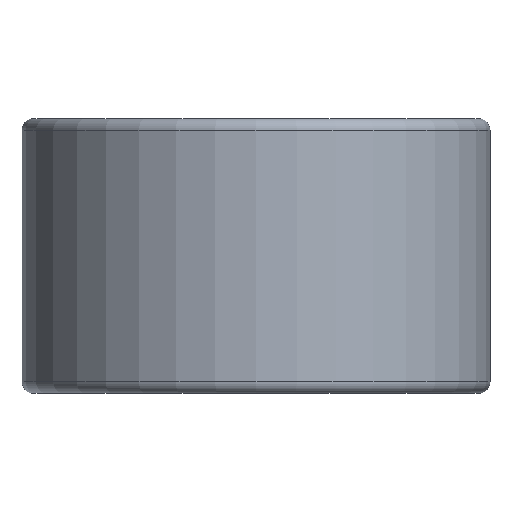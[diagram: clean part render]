
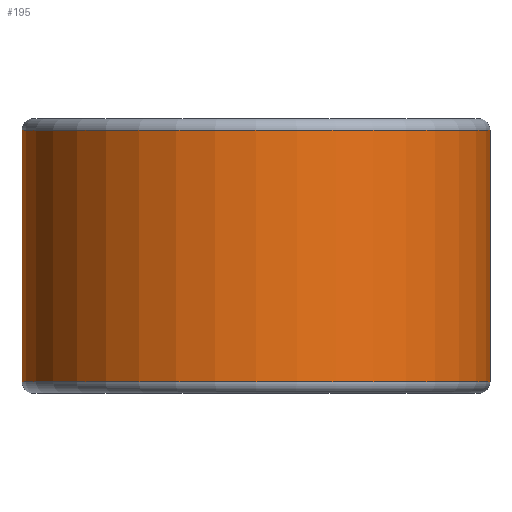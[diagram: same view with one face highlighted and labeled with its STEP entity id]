
A CAD part, front view. The second image highlights one B-rep face of the part: STEP entity #195.
In plain terms, the highlighted cylindrical face has radius 20 mm (diameter 40 mm), a partial arc.
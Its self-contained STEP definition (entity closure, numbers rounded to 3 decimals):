
#13 = DIRECTION ( 'NONE',  ( 0., 0., -1. ) ) ;
#27 = CARTESIAN_POINT ( 'NONE',  ( 20., 0., 23.5 ) ) ;
#52 = VERTEX_POINT ( 'NONE', #286 ) ;
#67 = DIRECTION ( 'NONE',  ( 1., 0., 0. ) ) ;
#78 = ORIENTED_EDGE ( 'NONE', *, *, #329, .T. ) ;
#94 = CYLINDRICAL_SURFACE ( 'NONE', #442, 20. ) ;
#97 = AXIS2_PLACEMENT_3D ( 'NONE', #326, #172, #108 ) ;
#103 = EDGE_LOOP ( 'NONE', ( #455, #78, #384, #412 ) ) ;
#108 = DIRECTION ( 'NONE',  ( 1., 0., 0. ) ) ;
#124 = VERTEX_POINT ( 'NONE', #421 ) ;
#127 = LINE ( 'NONE', #302, #218 ) ;
#172 = DIRECTION ( 'NONE',  ( 0., 0., -1. ) ) ;
#176 = CIRCLE ( 'NONE', #216, 20. ) ;
#180 = EDGE_CURVE ( 'NONE', #367, #52, #127, .T. ) ;
#195 = ADVANCED_FACE ( 'NONE', ( #311 ), #94, .T. ) ;
#204 = LINE ( 'NONE', #27, #466 ) ;
#216 = AXIS2_PLACEMENT_3D ( 'NONE', #289, #246, #67 ) ;
#218 = VECTOR ( 'NONE', #369, 1000. ) ;
#225 = CARTESIAN_POINT ( 'NONE',  ( 0., 0., 23.5 ) ) ;
#237 = DIRECTION ( 'NONE',  ( -1., 0., 0. ) ) ;
#246 = DIRECTION ( 'NONE',  ( 0., 0., 1. ) ) ;
#251 = CARTESIAN_POINT ( 'NONE',  ( 20., 0., 1. ) ) ;
#286 = CARTESIAN_POINT ( 'NONE',  ( -20., 0., 1. ) ) ;
#287 = CARTESIAN_POINT ( 'NONE',  ( -20., 0., 22.5 ) ) ;
#289 = CARTESIAN_POINT ( 'NONE',  ( 0., 0., 1. ) ) ;
#302 = CARTESIAN_POINT ( 'NONE',  ( -20., 0., 23.5 ) ) ;
#311 = FACE_OUTER_BOUND ( 'NONE', #103, .T. ) ;
#320 = EDGE_CURVE ( 'NONE', #52, #321, #176, .T. ) ;
#321 = VERTEX_POINT ( 'NONE', #251 ) ;
#326 = CARTESIAN_POINT ( 'NONE',  ( 0., 0., 22.5 ) ) ;
#329 = EDGE_CURVE ( 'NONE', #124, #367, #401, .T. ) ;
#367 = VERTEX_POINT ( 'NONE', #287 ) ;
#369 = DIRECTION ( 'NONE',  ( 0., 0., -1. ) ) ;
#381 = EDGE_CURVE ( 'NONE', #124, #321, #204, .T. ) ;
#384 = ORIENTED_EDGE ( 'NONE', *, *, #180, .T. ) ;
#401 = CIRCLE ( 'NONE', #97, 20. ) ;
#412 = ORIENTED_EDGE ( 'NONE', *, *, #320, .T. ) ;
#421 = CARTESIAN_POINT ( 'NONE',  ( 20., 0., 22.5 ) ) ;
#442 = AXIS2_PLACEMENT_3D ( 'NONE', #225, #13, #237 ) ;
#455 = ORIENTED_EDGE ( 'NONE', *, *, #381, .F. ) ;
#457 = DIRECTION ( 'NONE',  ( 0., 0., -1. ) ) ;
#466 = VECTOR ( 'NONE', #457, 1000. ) ;
